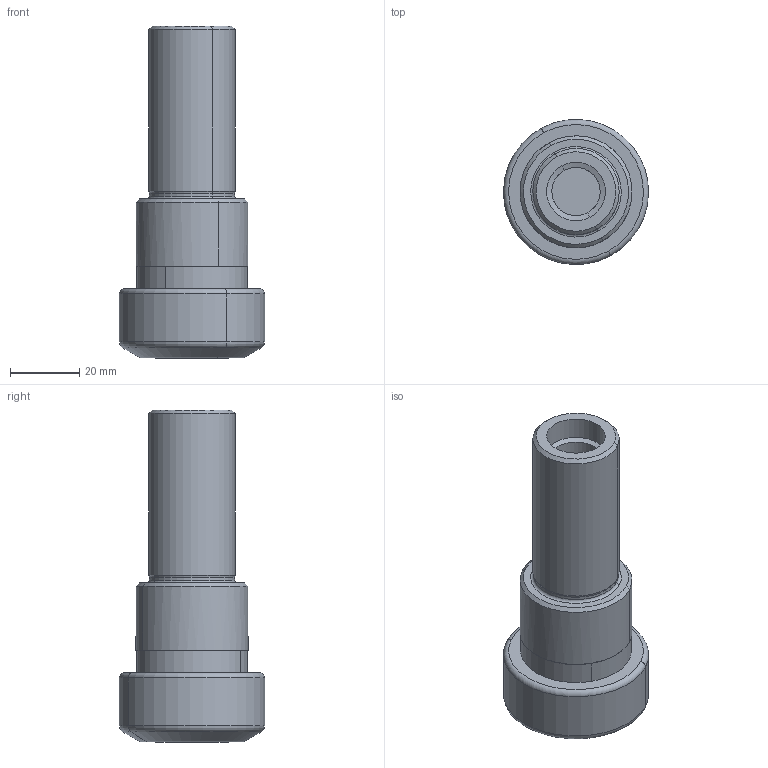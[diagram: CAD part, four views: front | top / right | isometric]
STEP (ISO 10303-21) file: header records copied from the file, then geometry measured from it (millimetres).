
FILE_DESCRIPTION(('CATIA V5 STEP','CAx-IF Rec.Pracs.--- Model Styling and Organization---1.2---2011-12-15'),'2;1');
FILE_NAME('\\nas01\drv1\utils\eitdev\rte\eit\transmagicconvert\db\out\635961544475309965\4508002 LM.stp','2016-04-13T11:27:42+00:00',('none'),('none'),'CATIA Version 5 Release 21 SP 5 (IN-10)','CATIA V5 STEP AP214','none');
FILE_SCHEMA(('AUTOMOTIVE_DESIGN { 1 0 10303 214 1 1 1 1 }'));
Length unit declared in the file: millimetre
Products named in the file (1): ST 25X 50 ER25 F
Bounding box: 41.99 x 41.99 x 96.04 mm (x, y, z)
Volume: 53984.4 mm3; surface area: 14834.7 mm2
Topology: 1 solids, 1 shells, 53 faces, 112 edges, 66 vertices
Faces by surface type: cylinder 20, cone 14, torus 10, plane 7, extrusion 2
Entity records: 1407 total; most frequent: CARTESIAN_POINT 352, ORIENTED_EDGE 224, DIRECTION 170, EDGE_CURVE 112, AXIS2_PLACEMENT_3D 101, CIRCLE 68, VERTEX_POINT 66, EDGE_LOOP 58
